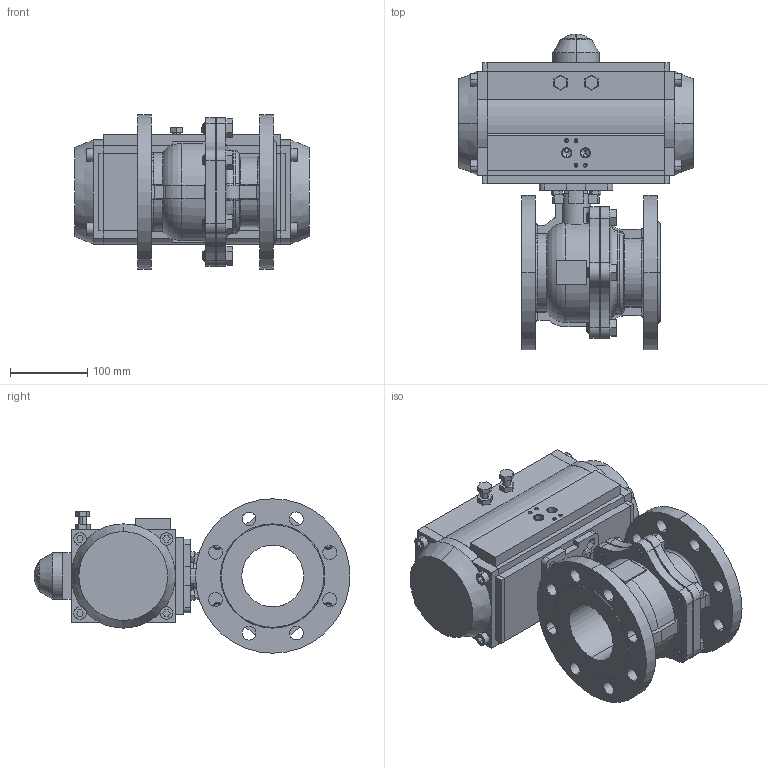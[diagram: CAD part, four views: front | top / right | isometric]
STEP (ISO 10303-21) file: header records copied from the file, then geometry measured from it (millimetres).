
FILE_DESCRIPTION((''),'2;1');
FILE_NAME('BV-22F_RPA_ASM','2024-09-11T',('USER'),(''),'PRO/ENGINEER BY PARAMETRIC TECHNOLOGY CORPORATION, 2011220','PRO/ENGINEER BY PARAMETRIC TECHNOLOGY CORPORATION, 2011220','');
FILE_SCHEMA(('CONFIG_CONTROL_DESIGN'));
Length unit declared in the file: millimetre
Products named in the file (12): KORPUS_KRAN_FL; BOLT_M14X30; SB_KRAN_FL_ASM; KORPUS_PNEVMOPRIVOD; KOLCO_35_GOST13942; KRISKA_VERX; VINT; KRISKA_LEFT; KRISKA_RIGHT; SB_PNEVMOPRIVOD_ASM; B-7798-M8-16; BV-22F_RPA_ASM
Assembly tree (19 placements, depth 3):
  BV-22F_RPA_ASM
    SB_KRAN_FL_ASM
      KORPUS_KRAN_FL
      BOLT_M14X30  x6
    SB_PNEVMOPRIVOD_ASM
      KORPUS_PNEVMOPRIVOD
      KOLCO_35_GOST13942
      KRISKA_VERX
      VINT
      KRISKA_LEFT
      KRISKA_RIGHT
    B-7798-M8-16  x4
Bounding box: 304 x 408.96 x 200 mm (x, y, z)
Volume: 7601530.1 mm3; surface area: 649945 mm2
Topology: 17 solids, 59 shells, 924 faces, 2395 edges, 1541 vertices
Faces by surface type: plane 434, cylinder 362, cone 86, bspline 20, torus 20, sphere 2
Entity records: 26388 total; most frequent: CARTESIAN_POINT 6042, DIRECTION 4375, ORIENTED_EDGE 3966, EDGE_CURVE 2053, AXIS2_PLACEMENT_3D 1600, VERTEX_POINT 1353, VECTOR 1175, LINE 1175
